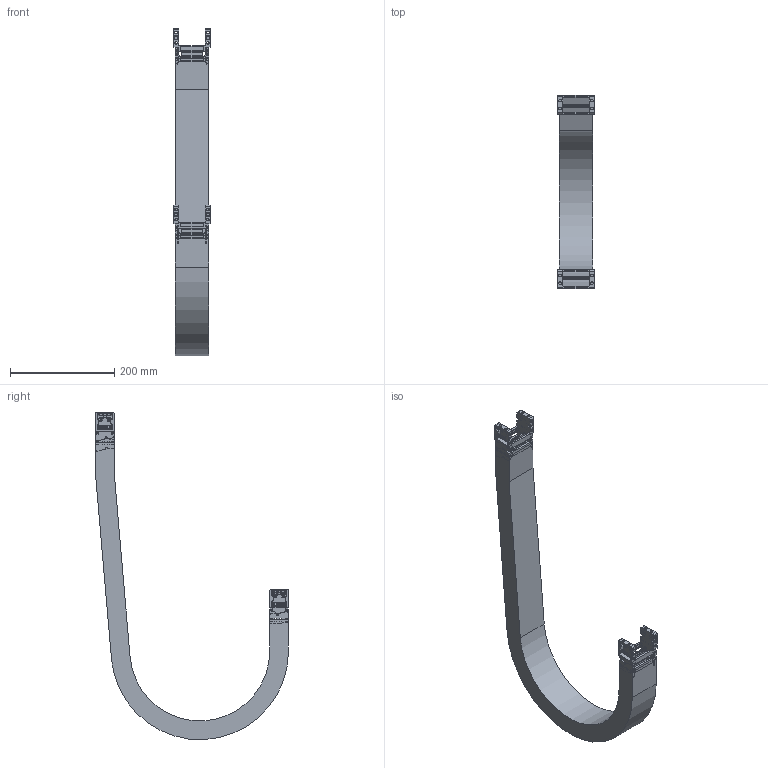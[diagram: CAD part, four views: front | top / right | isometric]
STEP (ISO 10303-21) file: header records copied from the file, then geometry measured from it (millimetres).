
FILE_DESCRIPTION((''),'2;1');
FILE_NAME('KST-25050-150_ASM','2017-12-05T',('KUNI004K'),(''),'PRO/ENGINEER BY PARAMETRIC TECHNOLOGY CORPORATION, 2015200','PRO/ENGINEER BY PARAMETRIC TECHNOLOGY CORPORATION, 2015200','');
FILE_SCHEMA(('AUTOMOTIVE_DESIGN { 1 0 10303 214 1 1 1 1 }'));
Length unit declared in the file: millimetre
Products named in the file (13): 25FBR; 25FBL; 25050C; KST25FBR_W050_ASM; 25150R; 25150L; 25050H; KST25050-150_1_ASM; KST25050_R150_BODY; 25MBR; 25MBL; KST25MBR_W050_ASM; KST-25050-150_ASM
Assembly tree (19 placements, depth 3):
  KST-25050-150_ASM
    KST25FBR_W050_ASM
      25FBR
      25FBL
      25050C  x2
    KST25050-150_1_ASM  x2
      25150R
      25150L
      25050C
      25050H
    KST25050_R150_BODY
    KST25MBR_W050_ASM
      25MBR
      25MBL
      25050C  x2
Bounding box: 70 x 371 x 629.14 mm (x, y, z)
Volume: 1088912.2 mm3; surface area: 491377.1 mm2
Topology: 21 solids, 21 shells, 2548 faces, 7082 edges, 4592 vertices
Faces by surface type: plane 1314, cylinder 930, bspline 208, sphere 64, torus 32
Entity records: 69181 total; most frequent: CARTESIAN_POINT 15174, ORIENTED_EDGE 7348, DIRECTION 6460, PRESENTATION_STYLE_ASSIGNMENT 4966, STYLED_ITEM 4966, CURVE_STYLE 3674, EDGE_CURVE 3674, VECTOR 2430
